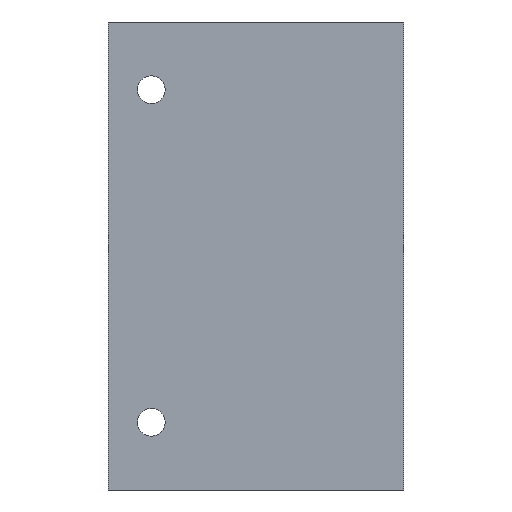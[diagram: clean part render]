
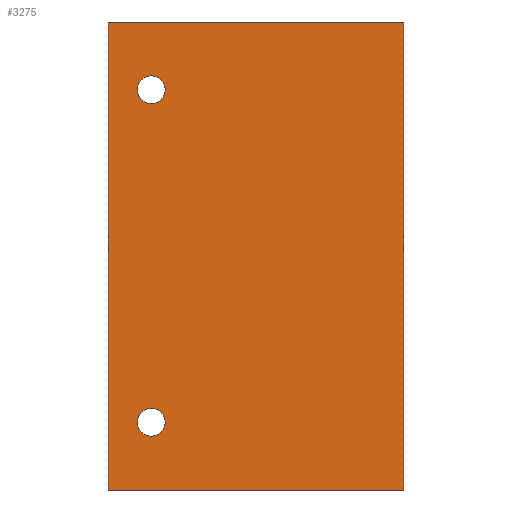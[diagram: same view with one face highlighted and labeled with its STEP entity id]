
A CAD part, front view. The second image highlights one B-rep face of the part: STEP entity #3275.
In plain terms, the highlighted planar face has unit normal (0, -1, 0).
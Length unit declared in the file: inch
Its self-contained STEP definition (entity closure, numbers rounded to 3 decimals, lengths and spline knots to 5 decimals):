
#139=FACE_BOUND('',#735,.T.);
#140=FACE_BOUND('',#736,.T.);
#141=FACE_BOUND('',#737,.T.);
#211=CIRCLE('',#3445,0.14063);
#213=CIRCLE('',#3448,0.14063);
#735=EDGE_LOOP('',(#2652));
#736=EDGE_LOOP('',(#2653));
#737=EDGE_LOOP('',(#2654,#2655,#2656,#2657));
#1113=LINE('',#5512,#1303);
#1116=LINE('',#5528,#1306);
#1122=LINE('',#5836,#1312);
#1124=LINE('',#5839,#1314);
#1303=VECTOR('',#3930,3.);
#1306=VECTOR('',#3945,3.);
#1312=VECTOR('',#4063,4.75);
#1314=VECTOR('',#4067,4.75);
#1528=VERTEX_POINT('',#5506);
#1530=VERTEX_POINT('',#5510);
#1536=VERTEX_POINT('',#5525);
#1537=VERTEX_POINT('',#5527);
#1540=VERTEX_POINT('',#5536);
#1542=VERTEX_POINT('',#5541);
#1910=EDGE_CURVE('',#1528,#1530,#1113,.T.);
#1916=EDGE_CURVE('',#1537,#1536,#1116,.T.);
#1920=EDGE_CURVE('',#1540,#1540,#211,.T.);
#1922=EDGE_CURVE('',#1542,#1542,#213,.T.);
#1962=EDGE_CURVE('',#1536,#1528,#1122,.T.);
#1964=EDGE_CURVE('',#1537,#1530,#1124,.T.);
#2652=ORIENTED_EDGE('',*,*,#1920,.T.);
#2653=ORIENTED_EDGE('',*,*,#1922,.T.);
#2654=ORIENTED_EDGE('',*,*,#1910,.T.);
#2655=ORIENTED_EDGE('',*,*,#1964,.F.);
#2656=ORIENTED_EDGE('',*,*,#1916,.T.);
#2657=ORIENTED_EDGE('',*,*,#1962,.T.);
#2957=PLANE('',#3497);
#3275=ADVANCED_FACE('',(#139,#140,#141),#2957,.T.);
#3445=AXIS2_PLACEMENT_3D('',#5537,#3955,#3956);
#3448=AXIS2_PLACEMENT_3D('',#5542,#3961,#3962);
#3497=AXIS2_PLACEMENT_3D('',#5838,#4065,#4066);
#3930=DIRECTION('',(1.,0.,0.));
#3945=DIRECTION('',(-1.,0.,0.));
#3955=DIRECTION('center_axis',(0.,1.,0.));
#3956=DIRECTION('ref_axis',(1.,0.,0.));
#3961=DIRECTION('center_axis',(0.,1.,0.));
#3962=DIRECTION('ref_axis',(1.,0.,0.));
#4063=DIRECTION('',(0.,0.,-1.));
#4065=DIRECTION('center_axis',(0.,-1.,0.));
#4066=DIRECTION('ref_axis',(0.,0.,-1.));
#4067=DIRECTION('',(0.,0.,-1.));
#5506=CARTESIAN_POINT('',(-1.5,-0.75,-4.75));
#5510=CARTESIAN_POINT('',(1.5,-0.75,-4.75));
#5512=CARTESIAN_POINT('',(1.5,-0.75,-4.75));
#5525=CARTESIAN_POINT('',(-1.5,-0.75,0.));
#5527=CARTESIAN_POINT('',(1.5,-0.75,0.));
#5528=CARTESIAN_POINT('',(1.5,-0.75,0.));
#5536=CARTESIAN_POINT('',(-1.20313,-0.75,-0.6875));
#5537=CARTESIAN_POINT('Origin',(-1.0625,-0.75,-0.6875));
#5541=CARTESIAN_POINT('',(-1.20313,-0.75,-4.0625));
#5542=CARTESIAN_POINT('Origin',(-1.0625,-0.75,-4.0625));
#5836=CARTESIAN_POINT('',(-1.5,-0.75,0.));
#5838=CARTESIAN_POINT('Origin',(-1.5,-0.75,0.));
#5839=CARTESIAN_POINT('',(1.5,-0.75,0.));
